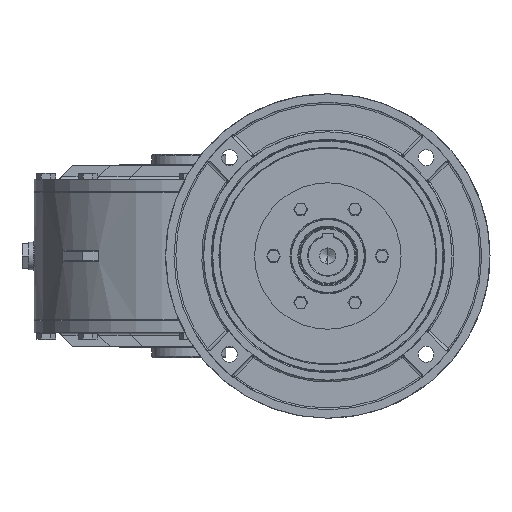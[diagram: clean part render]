
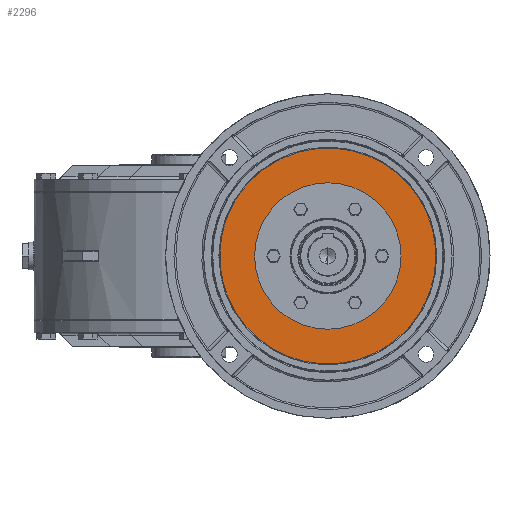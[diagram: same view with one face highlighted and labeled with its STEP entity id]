
A CAD part, left-side view. The second image highlights one B-rep face of the part: STEP entity #2296.
In plain terms, the highlighted planar face has unit normal (-1, 0, 0).
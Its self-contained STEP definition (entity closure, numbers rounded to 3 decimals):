
#2182 = EDGE_LOOP ( 'NONE', ( #2216, #2585 ) ) ;
#2216 = ORIENTED_EDGE ( 'NONE', *, *, #9458, .F. ) ;
#2267 = EDGE_LOOP ( 'NONE', ( #2805, #2600 ) ) ;
#2296 = ADVANCED_FACE ( 'NONE', ( #26547, #26541 ), #26540, .F. ) ;
#2585 = ORIENTED_EDGE ( 'NONE', *, *, #2707, .F. ) ;
#2600 = ORIENTED_EDGE ( 'NONE', *, *, #48071, .F. ) ;
#2707 = EDGE_CURVE ( 'NONE', #9492, #9490, #26518, .T. ) ;
#2805 = ORIENTED_EDGE ( 'NONE', *, *, #8527, .F. ) ;
#8527 = EDGE_CURVE ( 'NONE', #8545, #8546, #47580, .T. ) ;
#8545 = VERTEX_POINT ( 'NONE', #47770 ) ;
#8546 = VERTEX_POINT ( 'NONE', #47769 ) ;
#9458 = EDGE_CURVE ( 'NONE', #9490, #9492, #49076, .T. ) ;
#9490 = VERTEX_POINT ( 'NONE', #49155 ) ;
#9492 = VERTEX_POINT ( 'NONE', #49150 ) ;
#26515 = DIRECTION ( 'NONE',  ( -1., 0., 0. ) ) ;
#26516 = CARTESIAN_POINT ( 'NONE',  ( -189., 0., 0. ) ) ;
#26517 = AXIS2_PLACEMENT_3D ( 'NONE', #26516, #26515, #26576 ) ;
#26518 = CIRCLE ( 'NONE', #26517, 79. ) ;
#26535 = DIRECTION ( 'NONE',  ( 0., 0., -1. ) ) ;
#26536 = DIRECTION ( 'NONE',  ( 1., 0., 0. ) ) ;
#26537 = CARTESIAN_POINT ( 'NONE',  ( -189., 0., 0. ) ) ;
#26538 = AXIS2_PLACEMENT_3D ( 'NONE', #26537, #26536, #26535 ) ;
#26540 = PLANE ( 'NONE',  #26538 ) ;
#26541 = FACE_BOUND ( 'NONE', #2182, .T. ) ;
#26547 = FACE_OUTER_BOUND ( 'NONE', #2267, .T. ) ;
#26576 = DIRECTION ( 'NONE',  ( 0., 0., -1. ) ) ;
#41827 = CARTESIAN_POINT ( 'NONE',  ( -189., -82.378, -82.378 ) ) ;
#41830 = CARTESIAN_POINT ( 'NONE',  ( -189., -247.134, 82.378 ) ) ;
#41833 = CARTESIAN_POINT ( 'NONE',  ( -189., -82.378, 247.134 ) ) ;
#41836 = CARTESIAN_POINT ( 'NONE',  ( -189., 82.378, 82.378 ) ) ;
#41851 =( BOUNDED_CURVE ( )  B_SPLINE_CURVE ( 3, ( #41836, #41833, #41830, #41827 ),
 .UNSPECIFIED., .F., .F. ) 
 B_SPLINE_CURVE_WITH_KNOTS ( ( 4, 4 ),
 ( 0.5, 1. ),
 .UNSPECIFIED. ) 
 CURVE ( )  GEOMETRIC_REPRESENTATION_ITEM ( )  RATIONAL_B_SPLINE_CURVE ( ( 1., 0.333, 0.333, 1. ) ) 
 REPRESENTATION_ITEM ( '' )  );
#47580 =( BOUNDED_CURVE ( )  B_SPLINE_CURVE ( 3, ( #47597, #47596, #47595, #47594 ),
 .UNSPECIFIED., .F., .F. ) 
 B_SPLINE_CURVE_WITH_KNOTS ( ( 4, 4 ),
 ( 0., 0.5 ),
 .UNSPECIFIED. ) 
 CURVE ( )  GEOMETRIC_REPRESENTATION_ITEM ( )  RATIONAL_B_SPLINE_CURVE ( ( 1., 0.333, 0.333, 1. ) ) 
 REPRESENTATION_ITEM ( '' )  );
#47594 = CARTESIAN_POINT ( 'NONE',  ( -189., 82.378, 82.378 ) ) ;
#47595 = CARTESIAN_POINT ( 'NONE',  ( -189., 247.134, -82.378 ) ) ;
#47596 = CARTESIAN_POINT ( 'NONE',  ( -189., 82.378, -247.134 ) ) ;
#47597 = CARTESIAN_POINT ( 'NONE',  ( -189., -82.378, -82.378 ) ) ;
#47769 = CARTESIAN_POINT ( 'NONE',  ( -189., 82.378, 82.378 ) ) ;
#47770 = CARTESIAN_POINT ( 'NONE',  ( -189., -82.378, -82.378 ) ) ;
#48071 = EDGE_CURVE ( 'NONE', #8546, #8545, #41851, .T. ) ;
#49072 = DIRECTION ( 'NONE',  ( 0., 0., -1. ) ) ;
#49073 = DIRECTION ( 'NONE',  ( -1., 0., 0. ) ) ;
#49074 = CARTESIAN_POINT ( 'NONE',  ( -189., 0., 0. ) ) ;
#49075 = AXIS2_PLACEMENT_3D ( 'NONE', #49074, #49073, #49072 ) ;
#49076 = CIRCLE ( 'NONE', #49075, 79. ) ;
#49150 = CARTESIAN_POINT ( 'NONE',  ( -189., 0., 79. ) ) ;
#49155 = CARTESIAN_POINT ( 'NONE',  ( -189., 0., -79. ) ) ;
